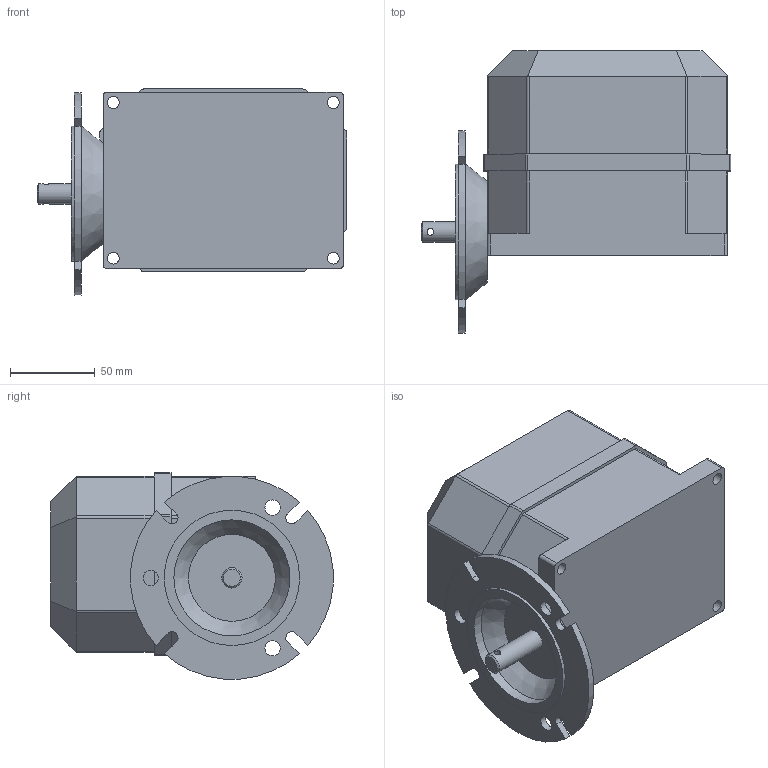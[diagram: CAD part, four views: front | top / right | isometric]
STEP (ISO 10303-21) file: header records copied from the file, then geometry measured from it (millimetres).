
FILE_DESCRIPTION(/* description */ (''),/* implementation_level */ '2;1');
FILE_NAME(/* name */ 'K:\NEMANJA\0700-6\CABLE REEL PART\0700-6\12 RLS\STEP\48837.stp',/* time_stamp */ '2017-12-01T09:50:36+01:00',/* author */ ('zeldjo01'),/* organization */ ('Hillmar Industries Ltd.'),/* preprocessor_version */ 'ST-DEVELOPER v16.1',/* originating_system */ 'Autodesk Inventor 2016',/* authorisation */ '');
FILE_SCHEMA (('AUTOMOTIVE_DESIGN { 1 0 10303 214 3 1 1 }'));
Length unit declared in the file: millimetre
Products named in the file (1): 48837
Bounding box: 183 x 166.8 x 121.8 mm (x, y, z)
Volume: 1679096.5 mm3; surface area: 106765.3 mm2
Topology: 1 solids, 1 shells, 106 faces, 297 edges, 199 vertices
Faces by surface type: plane 56, cylinder 47, cone 3
Full cylindrical faces by diameter (mm): 4 x1, 7 x4, 9 x3, 12 x1, 68.582 x1, 80 x1
Entity records: 3424 total; most frequent: CARTESIAN_POINT 644, DIRECTION 592, ORIENTED_EDGE 548, EDGE_CURVE 274, AXIS2_PLACEMENT_3D 214, VERTEX_POINT 190, LINE 164, VECTOR 164
